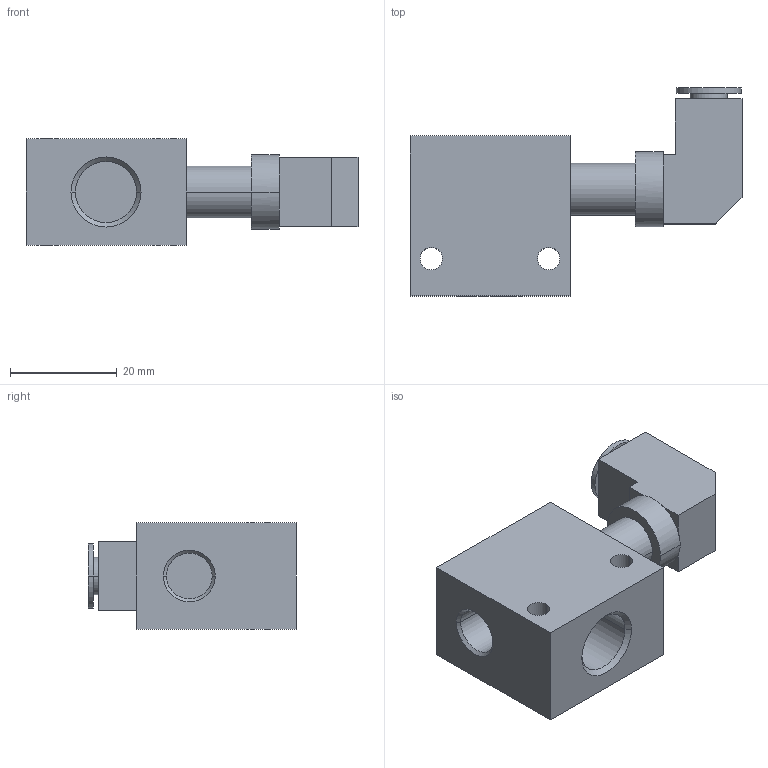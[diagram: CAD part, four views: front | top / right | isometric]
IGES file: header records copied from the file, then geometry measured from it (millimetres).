
Start section:  PTC IGES file: D:\Tpo v2\SharedFS\Outgoing\miniEjecteur2ejMi80100c0.igs
Global section: file name: D:\Tpo v2\SharedFS\Outgoing\miniEjecteur2ejMi80100c0.igs; native system:  by Parametric Technology Corporation; preprocessor: 2004280; organization: Unknown; date: 080310.170026; units: millimetre
Bounding box: 62.25 x 39 x 20 mm (x, y, z)
Volume: 21232.8 mm3; surface area: 7837.2 mm2
Topology: 1 solids, 1 shells, 50 faces, 111 edges, 70 vertices
Faces by surface type: bspline 28, revolution 22
